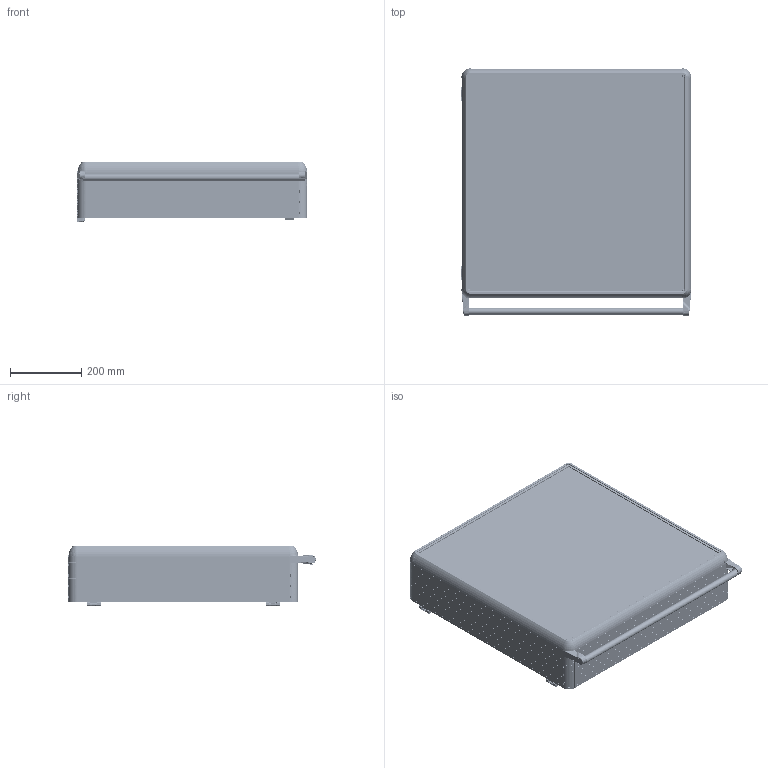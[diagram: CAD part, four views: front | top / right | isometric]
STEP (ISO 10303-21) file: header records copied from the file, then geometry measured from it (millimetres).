
FILE_DESCRIPTION (( 'STEP AP214' ), '1' );
FILE_NAME ('1500-0116.STEP', '2022-09-01T08:47:32', ( '' ), ( '' ), 'SwSTEP 2.0', 'SolidWorks 2022', '' );
FILE_SCHEMA (( 'AUTOMOTIVE_DESIGN' ));
Length unit declared in the file: millimetre
Products named in the file (8): HPECO-150-001_595; boru_625; ECO1500-0000; ECO1500-0100(SAÐ); 600X600; 1500-0116; ECO1500-0100(SOL); ARKA_KAPAK_600X600
Assembly tree (11 placements, depth 2):
  1500-0116
    600X600
    ARKA_KAPAK_600X600
    HPECO-150-001_595  x4
    ECO1500-0000  x2
    ECO1500-0100(SOL)
    boru_625
    ECO1500-0100(SAÐ)
Bounding box: 649.03 x 695.81 x 169.15 mm (x, y, z)
Volume: 4245906.8 mm3; surface area: 3572778.6 mm2
Topology: 43 solids, 93 shells, 10897 faces, 28322 edges, 17178 vertices
Faces by surface type: plane 3555, cylinder 3018, bspline 2912, cone 782, torus 496, sphere 134
Entity records: 391634 total; most frequent: CARTESIAN_POINT 121393, ORIENTED_EDGE 42618, DIRECTION 33185, EDGE_CURVE 21309, VERTEX_POINT 12965, AXIS2_PLACEMENT_3D 12337, EDGE_LOOP 8566, VECTOR 8511
